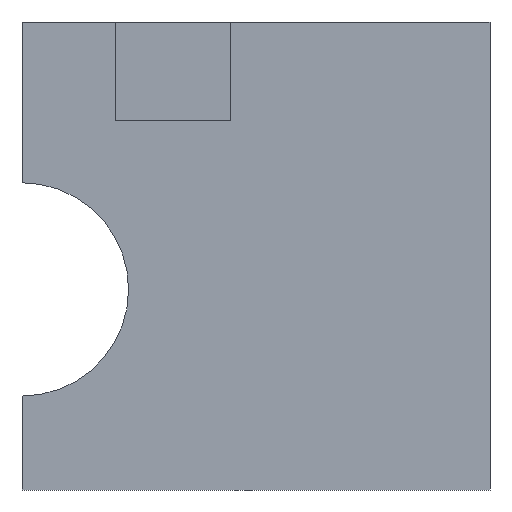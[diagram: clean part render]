
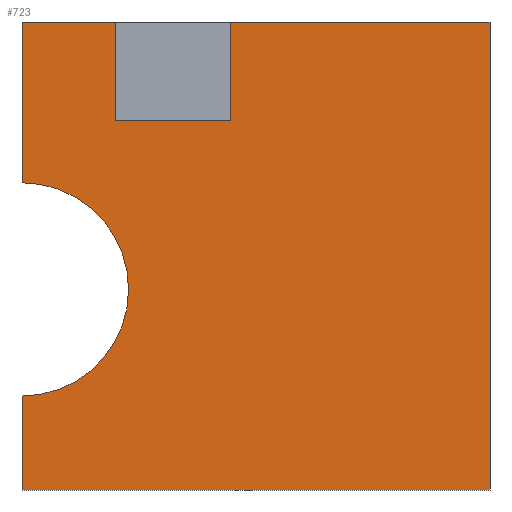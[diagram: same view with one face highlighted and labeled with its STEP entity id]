
A CAD part, front view. The second image highlights one B-rep face of the part: STEP entity #723.
In plain terms, the highlighted planar face has unit normal (0, -1, 0).
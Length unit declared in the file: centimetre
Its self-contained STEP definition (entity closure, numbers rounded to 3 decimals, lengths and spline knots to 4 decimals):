
#5 = VECTOR ( 'NONE', #713, 100. ) ;
#7 = CARTESIAN_POINT ( 'NONE',  ( 0., 0., 428.5981 ) ) ;
#14 = DIRECTION ( 'NONE',  ( 0., 1., 0. ) ) ;
#16 = EDGE_CURVE ( 'NONE', #111, #42, #138, .T. ) ;
#18 = CARTESIAN_POINT ( 'NONE',  ( 0., 0., 0. ) ) ;
#26 = CARTESIAN_POINT ( 'NONE',  ( 0., 0., 200.8247 ) ) ;
#35 = DIRECTION ( 'NONE',  ( 0., 0., 1. ) ) ;
#36 = ORIENTED_EDGE ( 'NONE', *, *, #155, .F. ) ;
#42 = VERTEX_POINT ( 'NONE', #536 ) ;
#52 = CARTESIAN_POINT ( 'NONE',  ( 446.1959, 0., 1000. ) ) ;
#74 = AXIS2_PLACEMENT_3D ( 'NONE', #225, #563, #95 ) ;
#78 = EDGE_CURVE ( 'NONE', #808, #208, #777, .T. ) ;
#83 = ORIENTED_EDGE ( 'NONE', *, *, #755, .F. ) ;
#87 = DIRECTION ( 'NONE',  ( 1., 0., 0. ) ) ;
#95 = DIRECTION ( 'NONE',  ( 0., 0., 1. ) ) ;
#104 = ORIENTED_EDGE ( 'NONE', *, *, #749, .F. ) ;
#105 = DIRECTION ( 'NONE',  ( 0., 0., -1. ) ) ;
#111 = VERTEX_POINT ( 'NONE', #795 ) ;
#121 = LINE ( 'NONE', #246, #786 ) ;
#127 = CARTESIAN_POINT ( 'NONE',  ( 1000., 0., 1000. ) ) ;
#138 = LINE ( 'NONE', #18, #596 ) ;
#153 = CARTESIAN_POINT ( 'NONE',  ( 446.1959, 0., 788.7792 ) ) ;
#155 = EDGE_CURVE ( 'NONE', #620, #490, #806, .T. ) ;
#199 = AXIS2_PLACEMENT_3D ( 'NONE', #7, #14, #522 ) ;
#208 = VERTEX_POINT ( 'NONE', #26 ) ;
#225 = CARTESIAN_POINT ( 'NONE',  ( 0., 0., 1000. ) ) ;
#246 = CARTESIAN_POINT ( 'NONE',  ( 0., 0., 1000. ) ) ;
#279 = VERTEX_POINT ( 'NONE', #720 ) ;
#282 = VECTOR ( 'NONE', #105, 100. ) ;
#296 = FACE_OUTER_BOUND ( 'NONE', #675, .T. ) ;
#299 = CARTESIAN_POINT ( 'NONE',  ( 0., 0., 1000. ) ) ;
#313 = LINE ( 'NONE', #371, #5 ) ;
#316 = VECTOR ( 'NONE', #639, 100. ) ;
#349 = LINE ( 'NONE', #694, #634 ) ;
#351 = ORIENTED_EDGE ( 'NONE', *, *, #589, .T. ) ;
#353 = EDGE_CURVE ( 'NONE', #208, #111, #643, .T. ) ;
#363 = LINE ( 'NONE', #153, #660 ) ;
#371 = CARTESIAN_POINT ( 'NONE',  ( 0., 0., 1000. ) ) ;
#413 = LINE ( 'NONE', #299, #673 ) ;
#419 = LINE ( 'NONE', #690, #282 ) ;
#487 = PLANE ( 'NONE',  #74 ) ;
#490 = VERTEX_POINT ( 'NONE', #528 ) ;
#494 = CARTESIAN_POINT ( 'NONE',  ( 0., 0., 1000. ) ) ;
#522 = DIRECTION ( 'NONE',  ( 0., 0., 1. ) ) ;
#528 = CARTESIAN_POINT ( 'NONE',  ( 199.0571, 0., 788.7792 ) ) ;
#536 = CARTESIAN_POINT ( 'NONE',  ( 1000., 0., 0. ) ) ;
#539 = VECTOR ( 'NONE', #682, 100. ) ;
#543 = CARTESIAN_POINT ( 'NONE',  ( 199.0571, 0., 788.7792 ) ) ;
#552 = DIRECTION ( 'NONE',  ( 1., 0., 0. ) ) ;
#560 = ORIENTED_EDGE ( 'NONE', *, *, #595, .F. ) ;
#563 = DIRECTION ( 'NONE',  ( 0., 1., 0. ) ) ;
#582 = DIRECTION ( 'NONE',  ( 0., 0., -1. ) ) ;
#589 = EDGE_CURVE ( 'NONE', #805, #808, #121, .T. ) ;
#595 = EDGE_CURVE ( 'NONE', #805, #620, #313, .T. ) ;
#596 = VECTOR ( 'NONE', #87, 100. ) ;
#620 = VERTEX_POINT ( 'NONE', #767 ) ;
#629 = DIRECTION ( 'NONE',  ( 1., 0., 0. ) ) ;
#630 = VERTEX_POINT ( 'NONE', #127 ) ;
#634 = VECTOR ( 'NONE', #552, 100. ) ;
#639 = DIRECTION ( 'NONE',  ( 0., 0., -1. ) ) ;
#640 = EDGE_CURVE ( 'NONE', #822, #630, #413, .T. ) ;
#643 = LINE ( 'NONE', #774, #316 ) ;
#660 = VECTOR ( 'NONE', #35, 100. ) ;
#673 = VECTOR ( 'NONE', #629, 100. ) ;
#675 = EDGE_LOOP ( 'NONE', ( #104, #36, #560, #351, #831, #695, #725, #83, #746, #683 ) ) ;
#682 = DIRECTION ( 'NONE',  ( 0., 0., -1. ) ) ;
#683 = ORIENTED_EDGE ( 'NONE', *, *, #708, .F. ) ;
#690 = CARTESIAN_POINT ( 'NONE',  ( 1000., 0., 1000. ) ) ;
#694 = CARTESIAN_POINT ( 'NONE',  ( 199.0571, 0., 788.7792 ) ) ;
#695 = ORIENTED_EDGE ( 'NONE', *, *, #353, .T. ) ;
#708 = EDGE_CURVE ( 'NONE', #279, #822, #363, .T. ) ;
#713 = DIRECTION ( 'NONE',  ( 1., 0., 0. ) ) ;
#720 = CARTESIAN_POINT ( 'NONE',  ( 446.1959, 0., 788.7792 ) ) ;
#723 = ADVANCED_FACE ( 'NONE', ( #296 ), #487, .F. ) ;
#725 = ORIENTED_EDGE ( 'NONE', *, *, #16, .T. ) ;
#746 = ORIENTED_EDGE ( 'NONE', *, *, #640, .F. ) ;
#749 = EDGE_CURVE ( 'NONE', #490, #279, #349, .T. ) ;
#755 = EDGE_CURVE ( 'NONE', #630, #42, #419, .T. ) ;
#767 = CARTESIAN_POINT ( 'NONE',  ( 199.0571, 0., 1000. ) ) ;
#768 = CARTESIAN_POINT ( 'NONE',  ( 0., 0., 656.3715 ) ) ;
#774 = CARTESIAN_POINT ( 'NONE',  ( 0., 0., 1000. ) ) ;
#777 = CIRCLE ( 'NONE', #199, 227.7734 ) ;
#786 = VECTOR ( 'NONE', #582, 100. ) ;
#795 = CARTESIAN_POINT ( 'NONE',  ( 0., 0., 0. ) ) ;
#805 = VERTEX_POINT ( 'NONE', #494 ) ;
#806 = LINE ( 'NONE', #543, #539 ) ;
#808 = VERTEX_POINT ( 'NONE', #768 ) ;
#822 = VERTEX_POINT ( 'NONE', #52 ) ;
#831 = ORIENTED_EDGE ( 'NONE', *, *, #78, .T. ) ;
